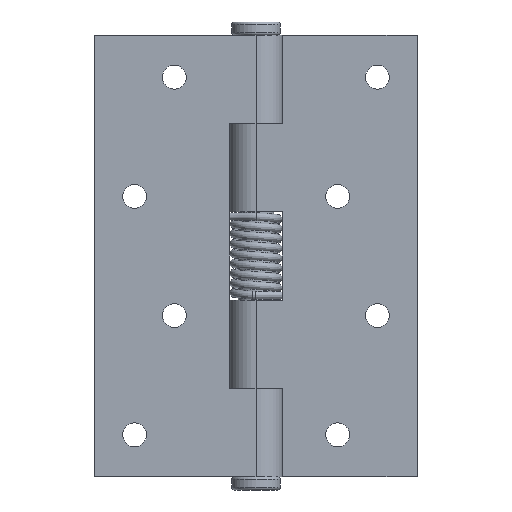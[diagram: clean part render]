
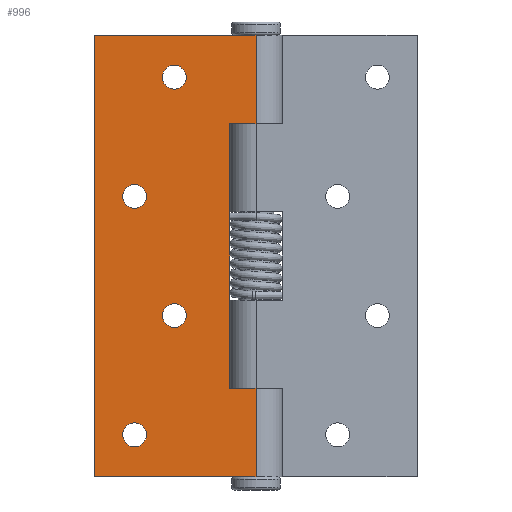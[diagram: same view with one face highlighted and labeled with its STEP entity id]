
A CAD part, front view. The second image highlights one B-rep face of the part: STEP entity #996.
In plain terms, the highlighted planar face has unit normal (0, -1, 0).
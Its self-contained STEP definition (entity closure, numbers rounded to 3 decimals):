
#72=FACE_BOUND('',#241,.T.);
#73=FACE_BOUND('',#242,.T.);
#74=FACE_BOUND('',#243,.T.);
#75=FACE_BOUND('',#244,.T.);
#117=CIRCLE('',#1076,2.7);
#118=CIRCLE('',#1077,2.7);
#119=CIRCLE('',#1078,2.7);
#120=CIRCLE('',#1079,2.7);
#172=FACE_OUTER_BOUND('',#240,.T.);
#240=EDGE_LOOP('',(#721,#722,#723,#724,#725,#726,#727,#728));
#241=EDGE_LOOP('',(#729));
#242=EDGE_LOOP('',(#730));
#243=EDGE_LOOP('',(#731));
#244=EDGE_LOOP('',(#732));
#348=LINE('',#1521,#416);
#350=LINE('',#1527,#418);
#355=LINE('',#1542,#423);
#356=LINE('',#1545,#424);
#357=LINE('',#1547,#425);
#358=LINE('',#1549,#426);
#359=LINE('',#1551,#427);
#360=LINE('',#1552,#428);
#416=VECTOR('',#1199,60.);
#418=VECTOR('',#1205,6.);
#423=VECTOR('',#1218,6.);
#424=VECTOR('',#1221,20.);
#425=VECTOR('',#1222,36.5);
#426=VECTOR('',#1223,100.);
#427=VECTOR('',#1224,36.5);
#428=VECTOR('',#1225,20.);
#484=VERTEX_POINT('',#1518);
#485=VERTEX_POINT('',#1520);
#486=VERTEX_POINT('',#1524);
#491=VERTEX_POINT('',#1535);
#494=VERTEX_POINT('',#1544);
#495=VERTEX_POINT('',#1546);
#496=VERTEX_POINT('',#1548);
#497=VERTEX_POINT('',#1550);
#498=VERTEX_POINT('',#1553);
#499=VERTEX_POINT('',#1555);
#500=VERTEX_POINT('',#1557);
#501=VERTEX_POINT('',#1559);
#580=EDGE_CURVE('',#485,#484,#348,.T.);
#583=EDGE_CURVE('',#484,#486,#350,.T.);
#591=EDGE_CURVE('',#491,#485,#355,.T.);
#592=EDGE_CURVE('',#486,#494,#356,.T.);
#593=EDGE_CURVE('',#494,#495,#357,.T.);
#594=EDGE_CURVE('',#496,#495,#358,.T.);
#595=EDGE_CURVE('',#496,#497,#359,.T.);
#596=EDGE_CURVE('',#497,#491,#360,.T.);
#597=EDGE_CURVE('',#498,#498,#117,.T.);
#598=EDGE_CURVE('',#499,#499,#118,.T.);
#599=EDGE_CURVE('',#500,#500,#119,.T.);
#600=EDGE_CURVE('',#501,#501,#120,.T.);
#721=ORIENTED_EDGE('',*,*,#591,.T.);
#722=ORIENTED_EDGE('',*,*,#580,.T.);
#723=ORIENTED_EDGE('',*,*,#583,.T.);
#724=ORIENTED_EDGE('',*,*,#592,.T.);
#725=ORIENTED_EDGE('',*,*,#593,.T.);
#726=ORIENTED_EDGE('',*,*,#594,.F.);
#727=ORIENTED_EDGE('',*,*,#595,.T.);
#728=ORIENTED_EDGE('',*,*,#596,.T.);
#729=ORIENTED_EDGE('',*,*,#597,.T.);
#730=ORIENTED_EDGE('',*,*,#598,.T.);
#731=ORIENTED_EDGE('',*,*,#599,.T.);
#732=ORIENTED_EDGE('',*,*,#600,.T.);
#962=PLANE('',#1075);
#996=ADVANCED_FACE('',(#172,#72,#73,#74,#75),#962,.T.);
#1075=AXIS2_PLACEMENT_3D('',#1543,#1219,#1220);
#1076=AXIS2_PLACEMENT_3D('',#1554,#1226,#1227);
#1077=AXIS2_PLACEMENT_3D('',#1556,#1228,#1229);
#1078=AXIS2_PLACEMENT_3D('',#1558,#1230,#1231);
#1079=AXIS2_PLACEMENT_3D('',#1560,#1232,#1233);
#1199=DIRECTION('',(0.,0.,1.));
#1205=DIRECTION('',(1.,0.,0.));
#1218=DIRECTION('',(-1.,0.,0.));
#1219=DIRECTION('center_axis',(0.,-1.,0.));
#1220=DIRECTION('ref_axis',(0.,0.,-1.));
#1221=DIRECTION('',(0.,0.,1.));
#1222=DIRECTION('',(-1.,0.,0.));
#1223=DIRECTION('',(0.,0.,1.));
#1224=DIRECTION('',(1.,0.,0.));
#1225=DIRECTION('',(0.,0.,1.));
#1226=DIRECTION('center_axis',(0.,1.,0.));
#1227=DIRECTION('ref_axis',(-1.,0.,0.));
#1228=DIRECTION('center_axis',(0.,1.,0.));
#1229=DIRECTION('ref_axis',(-1.,0.,0.));
#1230=DIRECTION('center_axis',(0.,1.,0.));
#1231=DIRECTION('ref_axis',(-1.,0.,0.));
#1232=DIRECTION('center_axis',(0.,1.,0.));
#1233=DIRECTION('ref_axis',(-1.,0.,0.));
#1518=CARTESIAN_POINT('',(-6.,0.,30.));
#1520=CARTESIAN_POINT('',(-6.,0.,-30.));
#1521=CARTESIAN_POINT('',(-6.,0.,5.));
#1524=CARTESIAN_POINT('',(0.,0.,30.));
#1527=CARTESIAN_POINT('',(-3.,0.,30.));
#1535=CARTESIAN_POINT('',(0.,0.,-30.));
#1542=CARTESIAN_POINT('',(3.,0.,-30.));
#1543=CARTESIAN_POINT('Origin',(0.,0.,0.));
#1544=CARTESIAN_POINT('',(0.,0.,50.));
#1545=CARTESIAN_POINT('',(0.,0.,0.));
#1546=CARTESIAN_POINT('',(-36.5,0.,50.));
#1547=CARTESIAN_POINT('',(-36.5,0.,50.));
#1548=CARTESIAN_POINT('',(-36.5,0.,-50.));
#1549=CARTESIAN_POINT('',(-36.5,0.,0.));
#1550=CARTESIAN_POINT('',(0.,0.,-50.));
#1551=CARTESIAN_POINT('',(-36.5,0.,-50.));
#1552=CARTESIAN_POINT('',(0.,0.,0.));
#1553=CARTESIAN_POINT('',(-15.8,0.,40.5));
#1554=CARTESIAN_POINT('Origin',(-18.5,0.,40.5));
#1555=CARTESIAN_POINT('',(-24.8,0.,-40.5));
#1556=CARTESIAN_POINT('Origin',(-27.5,0.,-40.5));
#1557=CARTESIAN_POINT('',(-15.8,0.,-13.5));
#1558=CARTESIAN_POINT('Origin',(-18.5,0.,-13.5));
#1559=CARTESIAN_POINT('',(-24.8,0.,13.5));
#1560=CARTESIAN_POINT('Origin',(-27.5,0.,13.5));
